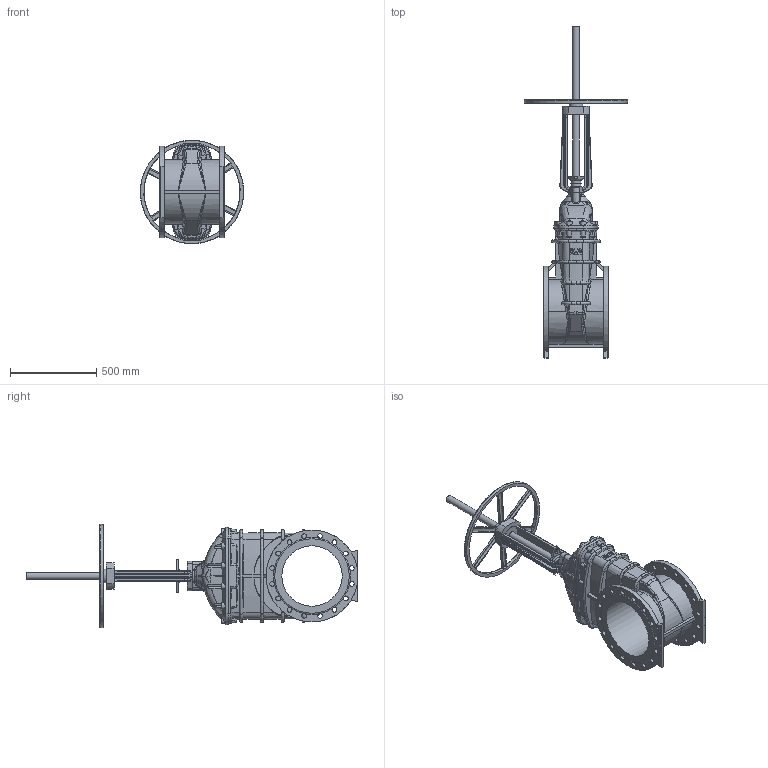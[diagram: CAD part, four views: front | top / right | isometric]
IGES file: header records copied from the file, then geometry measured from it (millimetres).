
Start section: SolidWorks IGES file using analytic representation for surfaces
Global section: file name: \\avksan2\techshare\PBM outline export from Enovia\O_21_34_DN350_41XXXXX open_AA0.igs; native system: SolidWorks 2012; preprocessor: SolidWorks 2012; author: pbm; date: 200212.104829; units: millimetre
Bounding box: 598.98 x 1924.5 x 598.98 mm (x, y, z)
Surface area: 3044372.3 mm2 (no closed solid volume)
Topology: 0 solids, 0 shells, 889 faces, 5099 edges, 5029 vertices
Faces by surface type: revolution 463, bspline 426
